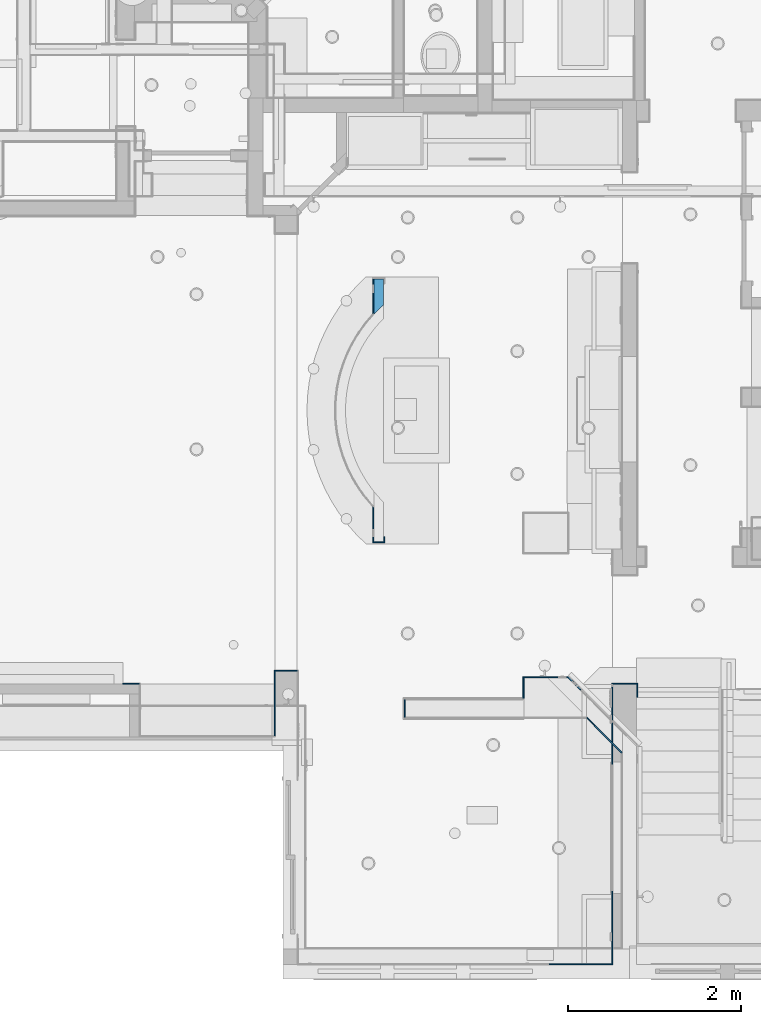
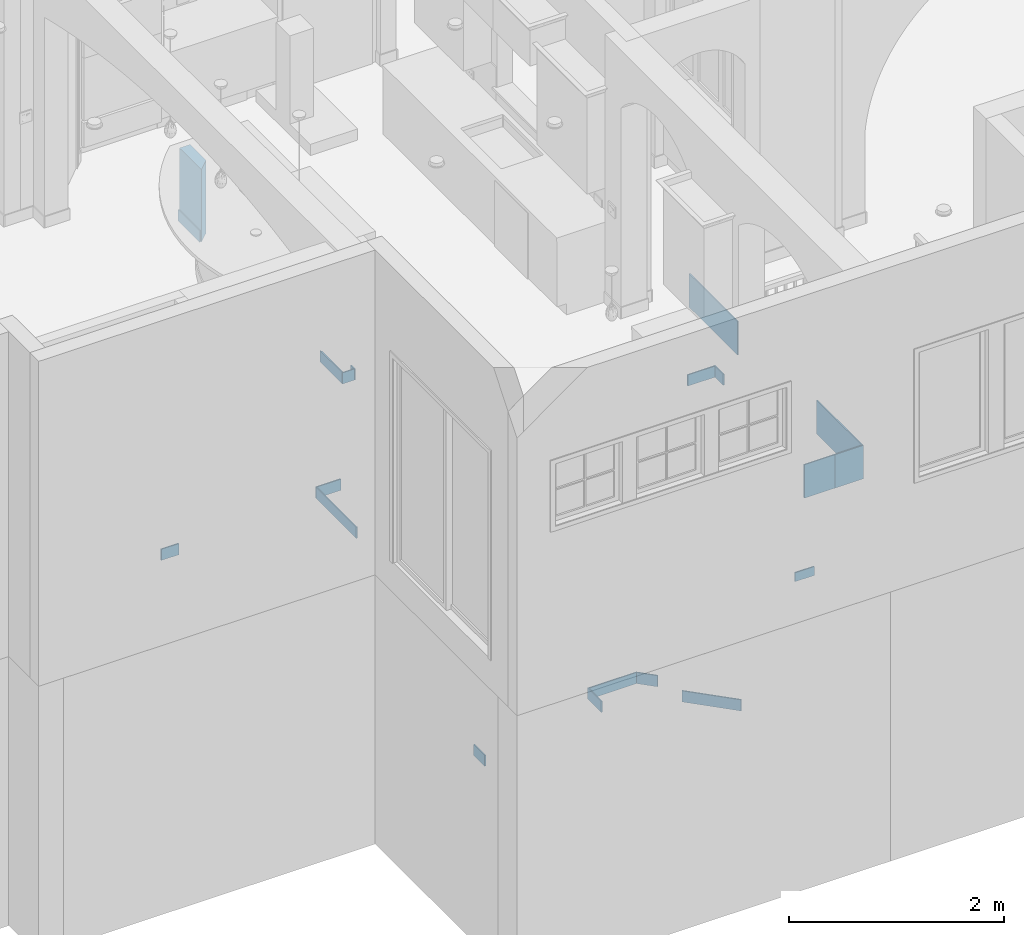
# One storey, part 17 of 81: 20 walls.
"""IFC2X3 building model written with IfcOpenShell, lengths in feet."""

from ifc_helpers import new_model, entity, si_unit, converted_unit, derived_unit, direction, frame, frame_2d, origin, place, context, subcontext, project, spatial, polyline, circle_curve, parameter, trimmed, segment, composite_curve, rectangle, outline, extrude, clip, bounded_halfspace, material, layer, layer_set, layer_usage, type_object, element, save


model = new_model("IFC2X3")

# Units and contexts
model_context = context("Model", 3, precision=0.0001, world=origin(), true_north=direction((6.12303176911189e-17, 1.0)))
body_context = subcontext(model_context, "Body", "Model", "MODEL_VIEW")
ifc_project = project(units=[converted_unit("LENGTHUNIT", "FOOT", entity("IfcRatioMeasure", 0.3048), si_unit("LENGTHUNIT", "METRE"), dimensions=[1, 0, 0, 0, 0, 0, 0]), converted_unit("AREAUNIT", "SQUARE FOOT", entity("IfcRatioMeasure", 0.09290304), si_unit("AREAUNIT", "SQUARE_METRE"), dimensions=[2, 0, 0, 0, 0, 0, 0]), converted_unit("VOLUMEUNIT", "CUBIC FOOT", entity("IfcRatioMeasure", 0.028316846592), si_unit("VOLUMEUNIT", "CUBIC_METRE"), dimensions=[3, 0, 0, 0, 0, 0, 0]), converted_unit("PLANEANGLEUNIT", "DEGREE", entity("IfcRatioMeasure", 0.0174532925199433), si_unit("PLANEANGLEUNIT", "RADIAN"), dimensions=[0, 0, 0, 0, 0, 0, 0]), si_unit("MASSUNIT", "GRAM", prefix="KILO"), derived_unit("MASSDENSITYUNIT", [(si_unit("MASSUNIT", "GRAM", prefix="KILO"), 1), (si_unit("LENGTHUNIT", "METRE"), -3)]), derived_unit("MOMENTOFINERTIAUNIT", [(si_unit("LENGTHUNIT", "METRE"), 4)]), si_unit("TIMEUNIT", "SECOND"), si_unit("FREQUENCYUNIT", "HERTZ"), si_unit("THERMODYNAMICTEMPERATUREUNIT", "DEGREE_CELSIUS"), derived_unit("THERMALTRANSMITTANCEUNIT", [(si_unit("MASSUNIT", "GRAM", prefix="KILO"), 1), (si_unit("THERMODYNAMICTEMPERATUREUNIT", "KELVIN"), -1), (si_unit("TIMEUNIT", "SECOND"), -3)]), derived_unit("VOLUMETRICFLOWRATEUNIT", [(si_unit("LENGTHUNIT", "METRE"), 3), (si_unit("TIMEUNIT", "SECOND"), -1)]), si_unit("ELECTRICCURRENTUNIT", "AMPERE"), si_unit("ELECTRICVOLTAGEUNIT", "VOLT"), si_unit("POWERUNIT", "WATT"), si_unit("FORCEUNIT", "NEWTON"), si_unit("ILLUMINANCEUNIT", "LUX"), si_unit("LUMINOUSFLUXUNIT", "LUMEN"), si_unit("LUMINOUSINTENSITYUNIT", "CANDELA"), derived_unit("USERDEFINED", [(si_unit("MASSUNIT", "GRAM", prefix="KILO"), -1), (si_unit("LENGTHUNIT", "METRE"), -2), (si_unit("TIMEUNIT", "SECOND"), 3), (si_unit("LUMINOUSFLUXUNIT", "LUMEN"), 1)]), derived_unit("LINEARVELOCITYUNIT", [(si_unit("LENGTHUNIT", "METRE"), 1), (si_unit("TIMEUNIT", "SECOND"), -1)]), si_unit("PRESSUREUNIT", "PASCAL"), derived_unit("USERDEFINED", [(si_unit("LENGTHUNIT", "METRE"), -2), (si_unit("MASSUNIT", "GRAM", prefix="KILO"), 1), (si_unit("TIMEUNIT", "SECOND"), -2)]), derived_unit("LINEARFORCEUNIT", [(si_unit("MASSUNIT", "GRAM", prefix="KILO"), 1), (si_unit("LENGTHUNIT", "METRE"), 1), (si_unit("TIMEUNIT", "SECOND"), -2), (si_unit("LENGTHUNIT", "METRE"), -1)]), derived_unit("PLANARFORCEUNIT", [(si_unit("MASSUNIT", "GRAM", prefix="KILO"), 1), (si_unit("LENGTHUNIT", "METRE"), 1), (si_unit("TIMEUNIT", "SECOND"), -2), (si_unit("LENGTHUNIT", "METRE"), -2)])], contexts=[model_context])

# Site, building, storey
site_placement = place(None, origin())
site = spatial("IfcSite", under=ifc_project, at=site_placement, Name="Default", CompositionType="ELEMENT")
building_placement = place(site_placement, origin())
building = spatial("IfcBuilding", under=site, at=building_placement, CompositionType="ELEMENT")
storey_placement = place(building_placement, origin())
storey = spatial("IfcBuildingStorey", under=building, at=storey_placement, Name="First floor", CompositionType="ELEMENT", Elevation=0.0)

# Walls
ifc_material = material(Name="Default New Material")
ifc_layer_1 = layer(ifc_material, 0.375)
ifc_layer_set_1 = layer_set([ifc_layer_1], Name="Basic Wall:Wall_4.5\"")
ifc_layer_usage_1 = layer_usage(ifc_layer_set_1, "AXIS2", "NEGATIVE", 0.1875)
wall_type_1 = type_object("IfcWallType", Name="Basic Wall:Wall_4.5\"", PredefinedType="STANDARD", material=ifc_layer_set_1)
wall_1_placement = place(storey_placement, frame((3.64583333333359, 25.2771599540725, 10.6666666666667), z_axis=(0.0, 0.0, 1.0), x_axis=(0.0, 1.0, 0.0)))
element("IfcWallStandardCase", 1, at=wall_1_placement, inside=storey, type_object=wall_type_1, material=ifc_layer_usage_1, Name="Basic Wall:Wall_4.5\"", ObjectType="Basic Wall:Wall_4.5\"", context=body_context, shape_type="SweptSolid", body=[
    extrude(outline(composite_curve([segment(polyline([(1.34784004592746, -0.1875), (1.34784004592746, 0.1875)]), True, "CONTINUOUS"), segment(polyline([(1.34784004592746, 0.1875), (0.0, 0.1875)]), True, "CONTINUOUS"), segment(trimmed(circle_curve(frame_2d((-3.65215995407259, -3.68312523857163), x_axis=(0.0, -1.0)), 5.32165501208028), [parameter(131.061448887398)], [parameter(136.663429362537)], True, "PARAMETER"), False, "CONTINUOUS"), segment(polyline([(0.360397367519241, -0.1875), (1.34784004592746, -0.1875)]), True, "CONTINUOUS")], self_intersect=False)), origin(), (0.0, 0.0, 1.0), 2.70833333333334),
])
ifc_layer_2 = layer(ifc_material, 0.0416666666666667)
ifc_layer_set_2 = layer_set([ifc_layer_2], Name="Basic Wall:Wall Border_T1")
ifc_layer_usage_2 = layer_usage(ifc_layer_set_2, "AXIS2", "NEGATIVE", 0.0208333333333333)
wall_type_2 = type_object("IfcWallType", Name="Basic Wall:Wall Border_T1", PredefinedType="STANDARD", material=ifc_layer_set_2)
wall_2_placement = place(storey_placement, frame((11.3218555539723, 10.9997455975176, 0.0), z_axis=(0.0, 0.0, 1.0), x_axis=(-0.707106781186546, 0.707106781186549, 0.0)))
element("IfcWallStandardCase", 2, at=wall_2_placement, inside=storey, type_object=wall_type_2, material=ifc_layer_usage_2, Name="Basic Wall:Wall Border_T1", ObjectType="Basic Wall:Wall Border_T1", context=body_context, shape_type="Clipping", body=[
    clip(clip(extrude(rectangle(XDim=0.687499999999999, YDim=0.0416666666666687, at=frame_2d((0.34375, -1.21430643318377e-17), x_axis=(-1.0, 0.0))), origin(), (0.0, 0.0, 1.0), 0.416666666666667), bounded_halfspace(frame((0.658037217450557, 0.00862944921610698, 0.416666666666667), z_axis=(-0.707106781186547, 0.707106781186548, 0.0), x_axis=(-0.707106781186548, -0.707106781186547, 0.0)), True, frame((0.658037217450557, 0.00862944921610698, 0.416666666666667), z_axis=(-0.707106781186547, 0.707106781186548, 0.0), x_axis=(-0.707106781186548, -0.707106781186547, 0.0)), polyline([(0.0, 0.0), (-0.0172588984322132, 0.0), (-0.0172588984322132, -0.416666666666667), (0.0, -0.416666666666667), (0.0, 0.0)]))), bounded_halfspace(frame((0.658037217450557, 0.00862944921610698, 0.0), z_axis=(-0.707106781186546, -0.707106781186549, 0.0), x_axis=(-0.707106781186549, 0.707106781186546, 0.0)), True, frame((0.658037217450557, 0.00862944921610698, 0.0), z_axis=(-0.707106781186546, -0.707106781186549, 0.0), x_axis=(-0.707106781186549, 0.707106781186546, 0.0)), polyline([(0.0, 0.0), (-0.0416666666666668, 0.0), (-0.0416666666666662, -0.416666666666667), (0.0, -0.416666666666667), (0.0, 0.0)]))),
])
ifc_layer_usage_3 = layer_usage(ifc_layer_set_2, "AXIS2", "NEGATIVE", 0.0208333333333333)
wall_3_placement = place(storey_placement, frame((10.8504510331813, 11.4797795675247, 0.0), z_axis=(0.0, 0.0, 1.0), x_axis=(-1.0, 0.0, 0.0)))
element("IfcWallStandardCase", 3, at=wall_3_placement, inside=storey, type_object=wall_type_2, material=ifc_layer_usage_3, Name="Basic Wall:Wall Border_T1", ObjectType="Basic Wall:Wall Border_T1", context=body_context, shape_type="Clipping", body=[
    clip(extrude(rectangle(XDim=1.67898337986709, YDim=0.0416666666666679, at=frame_2d((0.839491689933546, -6.41847686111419e-17), x_axis=(-1.0, 0.0))), origin(), (0.0, 0.0, 1.0), 0.416666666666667), bounded_halfspace(frame((1.67898337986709, -0.0208333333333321, 0.416666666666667), z_axis=(-1.0, 0.0, 0.0), x_axis=(0.0, -1.0, 0.0)), True, frame((1.67898337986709, -0.0208333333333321, 0.416666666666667), z_axis=(-1.0, 0.0, 0.0), x_axis=(0.0, -1.0, 0.0)), polyline([(0.0, 0.0), (-0.0416666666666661, 0.0), (-0.0416666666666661, -0.416666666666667), (0.0, -0.416666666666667), (0.0, 0.0)]))),
])
ifc_layer_usage_4 = layer_usage(ifc_layer_set_2, "AXIS2", "NEGATIVE", 0.0208333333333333)
wall_4_placement = place(storey_placement, frame((9.15063431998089, 11.5006129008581, 0.0), z_axis=(0.0, 0.0, 1.0), x_axis=(0.0, -1.0, 0.0)))
element("IfcWallStandardCase", 4, at=wall_4_placement, inside=storey, type_object=wall_type_2, material=ifc_layer_usage_4, Name="Basic Wall:Wall Border_T1", ObjectType="Basic Wall:Wall Border_T1", context=body_context, shape_type="SweptSolid", body=[
    extrude(rectangle(XDim=0.833946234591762, YDim=0.0416666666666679, at=frame_2d((0.416973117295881, 0.0), x_axis=(-1.0, 0.0))), origin(), (0.0, 0.0, 1.0), 0.416666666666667),
])
ifc_layer_usage_5 = layer_usage(ifc_layer_set_2, "AXIS2", "NEGATIVE", 0.0208333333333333)
wall_5_placement = place(storey_placement, frame((11.5647734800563, 9.93139805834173, 0.0), z_axis=(0.0, 0.0, 1.0), x_axis=(0.707106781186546, -0.707106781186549, 0.0)))
element("IfcWallStandardCase", 5, at=wall_5_placement, inside=storey, type_object=wall_type_2, material=ifc_layer_usage_5, Name="Basic Wall:Wall Border_T1", ObjectType="Basic Wall:Wall Border_T1", context=body_context, shape_type="SweptSolid", body=[
    extrude(rectangle(XDim=1.87377344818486, YDim=0.0416666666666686, at=frame_2d((0.936886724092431, 1.56125112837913e-17), x_axis=(-1.0, 0.0))), origin(), (0.0, 0.0, 1.0), 0.416666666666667),
])
ifc_layer_usage_6 = layer_usage(ifc_layer_set_2, "AXIS2", "NEGATIVE", 0.0208333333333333)
wall_6_placement = place(storey_placement, frame((13.4791666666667, 10.7083333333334, 10.6666666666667), z_axis=(0.0, 0.0, 1.0), x_axis=(0.0, 1.0, 0.0)))
element("IfcWallStandardCase", 6, at=wall_6_placement, inside=storey, type_object=wall_type_2, material=ifc_layer_usage_6, Name="Basic Wall:Wall Border_T1", ObjectType="Basic Wall:Wall Border_T1", context=body_context, shape_type="SweptSolid", body=[
    extrude(rectangle(XDim=0.541321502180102, YDim=0.0416666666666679, at=frame_2d((0.270660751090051, 3.46944695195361e-17), x_axis=(-1.0, 0.0))), origin(), (0.0, 0.0, 1.0), 0.416666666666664),
])
ifc_layer_usage_7 = layer_usage(ifc_layer_set_2, "AXIS2", "NEGATIVE", 0.0208333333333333)
wall_7_placement = place(storey_placement, frame((13.4583333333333, 11.2288215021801, 10.6666666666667), z_axis=(0.0, 0.0, 1.0), x_axis=(-1.0, 0.0, 0.0)))
element("IfcWallStandardCase", 7, at=wall_7_placement, inside=storey, type_object=wall_type_2, material=ifc_layer_usage_7, Name="Basic Wall:Wall Border_T1", ObjectType="Basic Wall:Wall Border_T1", context=body_context, shape_type="SweptSolid", body=[
    extrude(rectangle(XDim=0.958333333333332, YDim=0.0416666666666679, at=frame_2d((0.479166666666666, -1.26634813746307e-16), x_axis=(-1.0, 0.0))), origin(), (0.0, 0.0, 1.0), 0.416666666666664),
])
ifc_layer_usage_8 = layer_usage(ifc_layer_set_2, "AXIS2", "NEGATIVE", 0.0208333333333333)
wall_8_placement = place(storey_placement, frame((11.5416666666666, 0.562500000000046, 13.6666666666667)))
element("IfcWallStandardCase", 8, at=wall_8_placement, inside=storey, type_object=wall_type_2, material=ifc_layer_usage_8, Name="Basic Wall:Wall Border_T1", ObjectType="Basic Wall:Wall Border_T1", context=body_context, shape_type="SweptSolid", body=[
    extrude(rectangle(XDim=1.0, YDim=0.0416666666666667, at=frame_2d((0.500000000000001, -2.25514051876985e-17), x_axis=(-1.0, 0.0))), origin(), (0.0, 0.0, 1.0), 1.25000000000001),
])
ifc_layer_usage_9 = layer_usage(ifc_layer_set_2, "AXIS2", "NEGATIVE", 0.0208333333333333)
wall_9_placement = place(storey_placement, frame((12.5208333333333, 0.583333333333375, 13.6666666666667), z_axis=(0.0, 0.0, 1.0), x_axis=(0.0, 1.0, 0.0)))
element("IfcWallStandardCase", 9, at=wall_9_placement, inside=storey, type_object=wall_type_2, material=ifc_layer_usage_9, Name="Basic Wall:Wall Border_T1", ObjectType="Basic Wall:Wall Border_T1", context=body_context, shape_type="SweptSolid", body=[
    extrude(rectangle(XDim=2.74999999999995, YDim=0.0416666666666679, at=frame_2d((1.37499999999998, -2.35922392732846e-16), x_axis=(-1.0, 0.0))), origin(), (0.0, 0.0, 1.0), 1.25000000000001),
])
ifc_layer_usage_10 = layer_usage(ifc_layer_set_2, "AXIS2", "NEGATIVE", 0.0208333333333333)
wall_10_placement = place(storey_placement, frame((11.5416666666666, 0.562500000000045, 13.6666666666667), z_axis=(0.0, 0.0, 1.0), x_axis=(-1.0, 0.0, 0.0)))
element("IfcWallStandardCase", 10, at=wall_10_placement, inside=storey, type_object=wall_type_2, material=ifc_layer_usage_10, Name="Basic Wall:Wall Border_T1", ObjectType="Basic Wall:Wall Border_T1", context=body_context, shape_type="SweptSolid", body=[
    extrude(rectangle(XDim=1.08333333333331, YDim=0.0416666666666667, at=frame_2d((0.541666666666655, 0.0), x_axis=(-1.0, 0.0))), origin(), (0.0, 0.0, 1.0), 1.25000000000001),
])
ifc_layer_usage_11 = layer_usage(ifc_layer_set_2, "AXIS2", "NEGATIVE", 0.0208333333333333)
wall_11_placement = place(storey_placement, frame((12.5208333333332, 11.125, 13.6666666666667), z_axis=(0.0, 0.0, 1.0), x_axis=(0.0, -1.0, 0.0)))
element("IfcWallStandardCase", 11, at=wall_11_placement, inside=storey, type_object=wall_type_2, material=ifc_layer_usage_11, Name="Basic Wall:Wall Border_T1", ObjectType="Basic Wall:Wall Border_T1", context=body_context, shape_type="SweptSolid", body=[
    extrude(rectangle(XDim=2.95833333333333, YDim=0.0416666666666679, at=frame_2d((1.47916666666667, 0.0), x_axis=(-1.0, 0.0))), origin(), (0.0, 0.0, 1.0), 1.25000000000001),
])
ifc_layer_usage_12 = layer_usage(ifc_layer_set_2, "AXIS2", "NEGATIVE", 0.0208333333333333)
wall_12_placement = place(storey_placement, frame((10.125, 0.56250000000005, 10.6666666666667)))
element("IfcWallStandardCase", 12, at=wall_12_placement, inside=storey, type_object=wall_type_2, material=ifc_layer_usage_12, Name="Basic Wall:Wall Border_T1", ObjectType="Basic Wall:Wall Border_T1", context=body_context, shape_type="SweptSolid", body=[
    extrude(rectangle(XDim=0.687499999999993, YDim=0.0416666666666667, at=frame_2d((0.343749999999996, 0.0), x_axis=(-1.0, 0.0))), origin(), (0.0, 0.0, 1.0), 0.333333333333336),
])
ifc_layer_usage_13 = layer_usage(ifc_layer_set_2, "AXIS2", "NEGATIVE", 0.0208333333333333)
wall_13_placement = place(storey_placement, frame((0.541666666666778, 11.7291666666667, 10.6666666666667), z_axis=(0.0, 0.0, 1.0), x_axis=(-1.0, 0.0, 0.0)))
element("IfcWallStandardCase", 13, at=wall_13_placement, inside=storey, type_object=wall_type_2, material=ifc_layer_usage_13, Name="Basic Wall:Wall Border_T1", ObjectType="Basic Wall:Wall Border_T1", context=body_context, shape_type="SweptSolid", body=[
    extrude(rectangle(XDim=0.87500000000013, YDim=0.0416666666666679, at=frame_2d((0.437500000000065, 2.42861286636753e-17), x_axis=(-1.0, 0.0))), origin(), (0.0, 0.0, 1.0), 0.416666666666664),
])
ifc_layer_usage_14 = layer_usage(ifc_layer_set_2, "AXIS2", "NEGATIVE", 0.0208333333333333)
wall_14_placement = place(storey_placement, frame((-0.312500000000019, 11.7083333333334, 10.6666666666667), z_axis=(0.0, 0.0, 1.0), x_axis=(0.0, -1.0, 0.0)))
element("IfcWallStandardCase", 14, at=wall_14_placement, inside=storey, type_object=wall_type_2, material=ifc_layer_usage_14, Name="Basic Wall:Wall Border_T1", ObjectType="Basic Wall:Wall Border_T1", context=body_context, shape_type="SweptSolid", body=[
    extrude(rectangle(XDim=2.45833333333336, YDim=0.0416666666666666, at=frame_2d((1.22916666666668, 0.0), x_axis=(-1.0, 0.0))), origin(), (0.0, 0.0, 1.0), 0.416666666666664),
])
ifc_layer_usage_15 = layer_usage(ifc_layer_set_2, "AXIS2", "POSITIVE", -0.0208333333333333)
wall_15_placement = place(storey_placement, frame((-5.45833333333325, 11.2291666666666, 10.6666666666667), z_axis=(0.0, 0.0, 1.0), x_axis=(-1.0, 0.0, 0.0)))
element("IfcWallStandardCase", 15, at=wall_15_placement, inside=storey, type_object=wall_type_2, material=ifc_layer_usage_15, Name="Basic Wall:Wall Border_T1", ObjectType="Basic Wall:Wall Border_T1", context=body_context, shape_type="SweptSolid", body=[
    extrude(rectangle(XDim=0.62500000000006, YDim=0.0416666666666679, at=frame_2d((0.31250000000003, 0.0), x_axis=(-1.0, 0.0))), origin(), (0.0, 0.0, 1.0), 0.416666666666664),
])
ifc_layer_usage_16 = layer_usage(ifc_layer_set_2, "AXIS2", "NEGATIVE", 0.0208333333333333)
wall_16_placement = place(storey_placement, frame((3.43750000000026, 26.625, 10.6666666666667), z_axis=(0.0, 0.0, 1.0), x_axis=(0.0, -1.0, 0.0)))
element("IfcWallStandardCase", 16, at=wall_16_placement, inside=storey, type_object=wall_type_2, material=ifc_layer_usage_16, Name="Basic Wall:Wall Border_T1", ObjectType="Basic Wall:Wall Border_T1", context=body_context, shape_type="SweptSolid", body=[
    extrude(outline(composite_curve([segment(trimmed(circle_curve(frame_2d((5.0, 3.89145857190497), x_axis=(0.0, 1.0)), 5.36332167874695), [parameter(136.193717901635)], [parameter(136.840569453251)], True, "PARAMETER"), False, "CONTINUOUS"), segment(polyline([(1.28738910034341, 0.0208333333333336), (0.0, 0.0208333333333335)]), True, "CONTINUOUS"), segment(polyline([(0.0, 0.0208333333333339), (0.0, -0.0208333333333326)]), True, "CONTINUOUS"), segment(polyline([(0.0, -0.020833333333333), (1.33132292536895, -0.0208333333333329)]), True, "CONTINUOUS")], self_intersect=False)), origin(), (0.0, 0.0, 1.0), 0.416666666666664),
])
ifc_layer_usage_17 = layer_usage(ifc_layer_set_2, "AXIS2", "NEGATIVE", 0.0208333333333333)
wall_17_placement = place(storey_placement, frame((3.85416666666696, 16.8125, 10.6666666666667), z_axis=(0.0, 0.0, 1.0), x_axis=(0.0, -1.0, 0.0)))
element("IfcWallStandardCase", 17, at=wall_17_placement, inside=storey, type_object=wall_type_2, material=ifc_layer_usage_17, Name="Basic Wall:Wall Border_T1", ObjectType="Basic Wall:Wall Border_T1", context=body_context, shape_type="SweptSolid", body=[
    extrude(rectangle(XDim=0.229166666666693, YDim=0.041666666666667, at=frame_2d((0.114583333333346, -3.81639164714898e-17), x_axis=(-1.0, 0.0))), origin(), (0.0, 0.0, 1.0), 0.416666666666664),
])
ifc_layer_usage_18 = layer_usage(ifc_layer_set_2, "AXIS2", "NEGATIVE", 0.0208333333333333)
wall_18_placement = place(storey_placement, frame((3.83333333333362, 16.6041666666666, 10.6666666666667), z_axis=(0.0, 0.0, 1.0), x_axis=(-1.0, 0.0, 0.0)))
element("IfcWallStandardCase", 18, at=wall_18_placement, inside=storey, type_object=wall_type_2, material=ifc_layer_usage_18, Name="Basic Wall:Wall Border_T1", ObjectType="Basic Wall:Wall Border_T1", context=body_context, shape_type="SweptSolid", body=[
    extrude(rectangle(XDim=0.416666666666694, YDim=0.0416666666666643, at=frame_2d((0.208333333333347, 8.03176969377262e-16), x_axis=(-1.0, 0.0))), origin(), (0.0, 0.0, 1.0), 0.416666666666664),
])
ifc_layer_usage_19 = layer_usage(ifc_layer_set_2, "AXIS2", "NEGATIVE", 0.0208333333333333)
wall_19_placement = place(storey_placement, frame((3.43750000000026, 16.625, 10.6666666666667), z_axis=(0.0, 0.0, 1.0), x_axis=(0.0, 1.0, 0.0)))
element("IfcWallStandardCase", 19, at=wall_19_placement, inside=storey, type_object=wall_type_2, material=ifc_layer_usage_19, Name="Basic Wall:Wall Border_T1", ObjectType="Basic Wall:Wall Border_T1", context=body_context, shape_type="SweptSolid", body=[
    extrude(outline(composite_curve([segment(trimmed(circle_curve(frame_2d((5.0, -3.89145857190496), x_axis=(0.0, -1.0)), 5.36332167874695), [parameter(223.15943054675)], [parameter(223.806282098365)], True, "PARAMETER"), False, "CONTINUOUS"), segment(polyline([(1.33132292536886, 0.0208333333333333), (0.0, 0.0208333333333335)]), True, "CONTINUOUS"), segment(polyline([(0.0, 0.0208333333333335), (0.0, -0.020833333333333)]), True, "CONTINUOUS"), segment(polyline([(0.0, -0.020833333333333), (1.28738910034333, -0.0208333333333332)]), True, "CONTINUOUS")], self_intersect=False)), origin(), (0.0, 0.0, 1.0), 0.416666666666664),
])
ifc_layer_usage_20 = layer_usage(ifc_layer_set_2, "AXIS2", "NEGATIVE", 0.0208333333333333)
wall_20_placement = place(storey_placement, frame((4.62980098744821, 10.6249999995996, 0.0), z_axis=(0.0, 0.0, 1.0), x_axis=(0.0, -1.0, 0.0)))
element("IfcWallStandardCase", 20, at=wall_20_placement, inside=storey, type_object=wall_type_2, material=ifc_layer_usage_20, Name="Basic Wall:Wall Border_T1", ObjectType="Basic Wall:Wall Border_T1", context=body_context, shape_type="SweptSolid", body=[
    extrude(rectangle(XDim=0.666666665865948, YDim=0.0416666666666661, at=frame_2d((0.333333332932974, 2.53269627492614e-16), x_axis=(-1.0, 0.0))), origin(), (0.0, 0.0, 1.0), 0.416666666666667),
])

save(model, "model.ifc")
